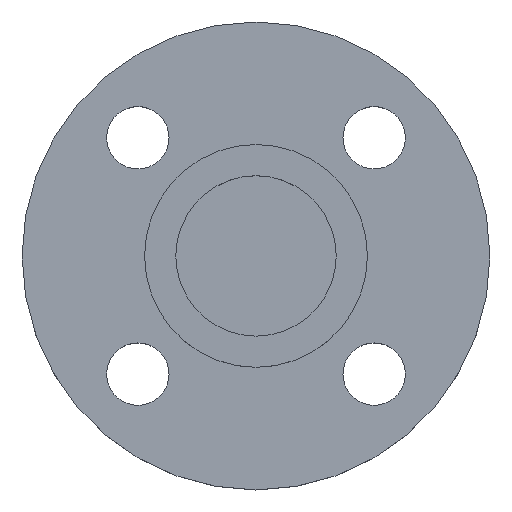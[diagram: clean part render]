
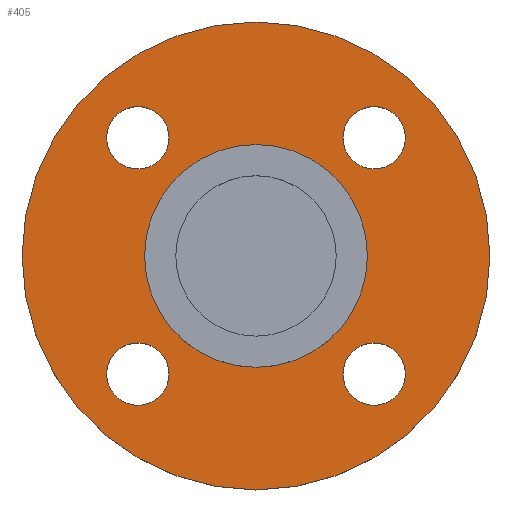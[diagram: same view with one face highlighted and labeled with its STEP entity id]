
A CAD part, top view. The second image highlights one B-rep face of the part: STEP entity #405.
In plain terms, the highlighted planar face has unit normal (0, 0, 1).
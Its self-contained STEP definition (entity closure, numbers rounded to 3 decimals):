
#14 = CARTESIAN_POINT ( 'NONE',  ( 0., 0., -4.5 ) ) ;
#16 = VERTEX_POINT ( 'NONE', #135 ) ;
#21 = DIRECTION ( 'NONE',  ( 1., 0., 0. ) ) ;
#22 = EDGE_CURVE ( 'NONE', #290, #180, #534, .T. ) ;
#24 = CIRCLE ( 'NONE', #233, 7. ) ;
#26 = VERTEX_POINT ( 'NONE', #140 ) ;
#29 = DIRECTION ( 'NONE',  ( 0., 0., -1. ) ) ;
#30 = CARTESIAN_POINT ( 'NONE',  ( 0., 0., -4.5 ) ) ;
#31 = DIRECTION ( 'NONE',  ( -1., 0., 0. ) ) ;
#32 = VERTEX_POINT ( 'NONE', #156 ) ;
#35 = CARTESIAN_POINT ( 'NONE',  ( 26.517, -26.517, -4.5 ) ) ;
#37 = DIRECTION ( 'NONE',  ( 0., 0., -1. ) ) ;
#44 = CIRCLE ( 'NONE', #463, 7. ) ;
#49 = CIRCLE ( 'NONE', #342, 7. ) ;
#51 = CARTESIAN_POINT ( 'NONE',  ( 26.517, 26.517, -4.5 ) ) ;
#52 = DIRECTION ( 'NONE',  ( 0., 0., -1. ) ) ;
#53 = DIRECTION ( 'NONE',  ( 1., 0., 0. ) ) ;
#58 = FACE_BOUND ( 'NONE', #230, .T. ) ;
#59 = FACE_BOUND ( 'NONE', #84, .T. ) ;
#61 = VERTEX_POINT ( 'NONE', #163 ) ;
#62 = FACE_BOUND ( 'NONE', #81, .T. ) ;
#65 = FACE_BOUND ( 'NONE', #303, .T. ) ;
#66 = VERTEX_POINT ( 'NONE', #124 ) ;
#69 = FACE_BOUND ( 'NONE', #387, .T. ) ;
#74 = AXIS2_PLACEMENT_3D ( 'NONE', #14, #507, #143 ) ;
#75 = CIRCLE ( 'NONE', #394, 7. ) ;
#78 = CIRCLE ( 'NONE', #461, 52.5 ) ;
#80 = VERTEX_POINT ( 'NONE', #192 ) ;
#81 = EDGE_LOOP ( 'NONE', ( #357, #358 ) ) ;
#82 = EDGE_LOOP ( 'NONE', ( #364, #365 ) ) ;
#84 = EDGE_LOOP ( 'NONE', ( #350, #360 ) ) ;
#96 = FACE_OUTER_BOUND ( 'NONE', #82, .T. ) ;
#97 = PLANE ( 'NONE',  #279 ) ;
#98 = CARTESIAN_POINT ( 'NONE',  ( 25., 0., -4.5 ) ) ;
#99 = DIRECTION ( 'NONE',  ( 0., 0., 1. ) ) ;
#102 = DIRECTION ( 'NONE',  ( 1., 0., 0. ) ) ;
#124 = CARTESIAN_POINT ( 'NONE',  ( -33.517, -26.517, -4.5 ) ) ;
#126 = AXIS2_PLACEMENT_3D ( 'NONE', #422, #474, #470 ) ;
#135 = CARTESIAN_POINT ( 'NONE',  ( -33.517, 26.517, -4.5 ) ) ;
#136 = CARTESIAN_POINT ( 'NONE',  ( 26.517, -26.517, -4.5 ) ) ;
#137 = DIRECTION ( 'NONE',  ( 0., 0., -1. ) ) ;
#138 = DIRECTION ( 'NONE',  ( 1., 0., 0. ) ) ;
#140 = CARTESIAN_POINT ( 'NONE',  ( 52.5, 0., -4.5 ) ) ;
#143 = DIRECTION ( 'NONE',  ( -1., 0., 0. ) ) ;
#156 = CARTESIAN_POINT ( 'NONE',  ( -52.5, 0., -4.5 ) ) ;
#163 = CARTESIAN_POINT ( 'NONE',  ( 19.517, 26.517, -4.5 ) ) ;
#173 = CARTESIAN_POINT ( 'NONE',  ( 0., 0., -4.5 ) ) ;
#174 = DIRECTION ( 'NONE',  ( 0., 0., -1. ) ) ;
#176 = CIRCLE ( 'NONE', #126, 25. ) ;
#178 = DIRECTION ( 'NONE',  ( -1., 0., 0. ) ) ;
#180 = VERTEX_POINT ( 'NONE', #424 ) ;
#186 = CARTESIAN_POINT ( 'NONE',  ( -26.517, 26.517, -4.5 ) ) ;
#187 = DIRECTION ( 'NONE',  ( 0., 0., -1. ) ) ;
#188 = DIRECTION ( 'NONE',  ( 1., 0., 0. ) ) ;
#192 = CARTESIAN_POINT ( 'NONE',  ( 33.517, 26.517, -4.5 ) ) ;
#197 = CARTESIAN_POINT ( 'NONE',  ( -26.517, -26.517, -4.5 ) ) ;
#198 = DIRECTION ( 'NONE',  ( 0., 0., -1. ) ) ;
#200 = DIRECTION ( 'NONE',  ( 1., 0., 0. ) ) ;
#230 = EDGE_LOOP ( 'NONE', ( #355, #356 ) ) ;
#233 = AXIS2_PLACEMENT_3D ( 'NONE', #51, #52, #53 ) ;
#235 = AXIS2_PLACEMENT_3D ( 'NONE', #30, #29, #31 ) ;
#236 = CIRCLE ( 'NONE', #452, 7. ) ;
#237 = CIRCLE ( 'NONE', #235, 25. ) ;
#242 = AXIS2_PLACEMENT_3D ( 'NONE', #35, #37, #21 ) ;
#251 = AXIS2_PLACEMENT_3D ( 'NONE', #136, #137, #138 ) ;
#254 = CARTESIAN_POINT ( 'NONE',  ( -26.517, -26.517, -4.5 ) ) ;
#255 = DIRECTION ( 'NONE',  ( 0., 0., -1. ) ) ;
#256 = DIRECTION ( 'NONE',  ( 1., 0., 0. ) ) ;
#257 = CIRCLE ( 'NONE', #273, 7. ) ;
#273 = AXIS2_PLACEMENT_3D ( 'NONE', #583, #584, #585 ) ;
#277 = EDGE_CURVE ( 'NONE', #298, #301, #176, .T. ) ;
#279 = AXIS2_PLACEMENT_3D ( 'NONE', #98, #99, #102 ) ;
#290 = VERTEX_POINT ( 'NONE', #454 ) ;
#294 = VERTEX_POINT ( 'NONE', #532 ) ;
#297 = VERTEX_POINT ( 'NONE', #524 ) ;
#298 = VERTEX_POINT ( 'NONE', #514 ) ;
#301 = VERTEX_POINT ( 'NONE', #512 ) ;
#303 = EDGE_LOOP ( 'NONE', ( #359, #361 ) ) ;
#342 = AXIS2_PLACEMENT_3D ( 'NONE', #186, #187, #188 ) ;
#350 = ORIENTED_EDGE ( 'NONE', *, *, #447, .T. ) ;
#355 = ORIENTED_EDGE ( 'NONE', *, *, #22, .T. ) ;
#356 = ORIENTED_EDGE ( 'NONE', *, *, #567, .T. ) ;
#357 = ORIENTED_EDGE ( 'NONE', *, *, #377, .T. ) ;
#358 = ORIENTED_EDGE ( 'NONE', *, *, #444, .T. ) ;
#359 = ORIENTED_EDGE ( 'NONE', *, *, #592, .T. ) ;
#360 = ORIENTED_EDGE ( 'NONE', *, *, #519, .T. ) ;
#361 = ORIENTED_EDGE ( 'NONE', *, *, #401, .T. ) ;
#362 = ORIENTED_EDGE ( 'NONE', *, *, #571, .T. ) ;
#363 = ORIENTED_EDGE ( 'NONE', *, *, #277, .T. ) ;
#364 = ORIENTED_EDGE ( 'NONE', *, *, #579, .F. ) ;
#365 = ORIENTED_EDGE ( 'NONE', *, *, #437, .F. ) ;
#377 = EDGE_CURVE ( 'NONE', #297, #16, #257, .T. ) ;
#387 = EDGE_LOOP ( 'NONE', ( #362, #363 ) ) ;
#394 = AXIS2_PLACEMENT_3D ( 'NONE', #485, #504, #528 ) ;
#401 = EDGE_CURVE ( 'NONE', #61, #80, #24, .T. ) ;
#405 = ADVANCED_FACE ( 'NONE', ( #58, #59, #62, #65, #69, #96 ), #97, .T. ) ;
#422 = CARTESIAN_POINT ( 'NONE',  ( 0., 0., -4.5 ) ) ;
#424 = CARTESIAN_POINT ( 'NONE',  ( 19.517, -26.517, -4.5 ) ) ;
#437 = EDGE_CURVE ( 'NONE', #32, #26, #78, .T. ) ;
#444 = EDGE_CURVE ( 'NONE', #16, #297, #49, .T. ) ;
#447 = EDGE_CURVE ( 'NONE', #294, #66, #44, .T. ) ;
#452 = AXIS2_PLACEMENT_3D ( 'NONE', #254, #255, #256 ) ;
#454 = CARTESIAN_POINT ( 'NONE',  ( 33.517, -26.517, -4.5 ) ) ;
#461 = AXIS2_PLACEMENT_3D ( 'NONE', #173, #174, #178 ) ;
#463 = AXIS2_PLACEMENT_3D ( 'NONE', #197, #198, #200 ) ;
#470 = DIRECTION ( 'NONE',  ( -1., 0., 0. ) ) ;
#474 = DIRECTION ( 'NONE',  ( 0., 0., -1. ) ) ;
#485 = CARTESIAN_POINT ( 'NONE',  ( 26.517, 26.517, -4.5 ) ) ;
#491 = CIRCLE ( 'NONE', #242, 7. ) ;
#504 = DIRECTION ( 'NONE',  ( 0., 0., -1. ) ) ;
#507 = DIRECTION ( 'NONE',  ( 0., 0., -1. ) ) ;
#512 = CARTESIAN_POINT ( 'NONE',  ( -25., 0., -4.5 ) ) ;
#514 = CARTESIAN_POINT ( 'NONE',  ( 25., 0., -4.5 ) ) ;
#516 = CIRCLE ( 'NONE', #74, 52.5 ) ;
#519 = EDGE_CURVE ( 'NONE', #66, #294, #236, .T. ) ;
#524 = CARTESIAN_POINT ( 'NONE',  ( -19.517, 26.517, -4.5 ) ) ;
#528 = DIRECTION ( 'NONE',  ( 1., 0., 0. ) ) ;
#532 = CARTESIAN_POINT ( 'NONE',  ( -19.517, -26.517, -4.5 ) ) ;
#534 = CIRCLE ( 'NONE', #251, 7. ) ;
#567 = EDGE_CURVE ( 'NONE', #180, #290, #491, .T. ) ;
#571 = EDGE_CURVE ( 'NONE', #301, #298, #237, .T. ) ;
#579 = EDGE_CURVE ( 'NONE', #26, #32, #516, .T. ) ;
#583 = CARTESIAN_POINT ( 'NONE',  ( -26.517, 26.517, -4.5 ) ) ;
#584 = DIRECTION ( 'NONE',  ( 0., 0., -1. ) ) ;
#585 = DIRECTION ( 'NONE',  ( 1., 0., 0. ) ) ;
#592 = EDGE_CURVE ( 'NONE', #80, #61, #75, .T. ) ;
